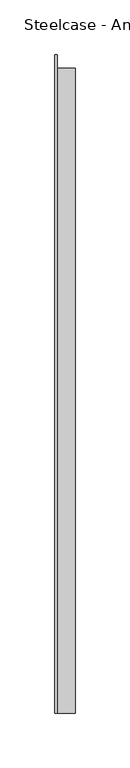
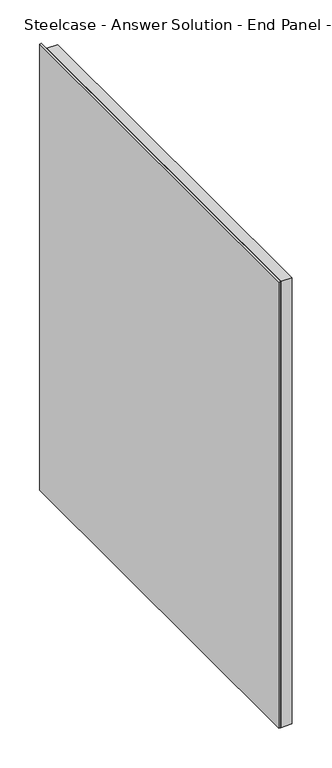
"""IFC4 building model written with IfcOpenShell, lengths in millimetres: furniture geometry, Steelcase - Answer Solution - End Panel - On Module : 24in - Left."""

from ifc_helpers import new_model, si_unit, origin, origin_with_axes, place, context, project, spatial, polyline, outline, extrude, source, transform, mapped, element, save


def steelcase_answer_solution_end_panel_on_module_24in_left_b476144d(model_context):
    return source(origin(), model_context, "Body", "SweptSolid", [
        extrude(outline(polyline([(-6.9848062, 0.0), (-6.9848062, -603.25), (-9.5248062, -603.25), (-9.5248062, 0.0), (-6.9848062, 0.0)])), origin_with_axes(), (0.0, 0.0, 1.0), 685.9143099),
        extrude(outline(polyline([(9.5251938, -12.7032217), (9.5251938, -603.25), (-6.9848062, -603.25), (-6.9848062, -12.7032217), (9.5251938, -12.7032217)])), origin_with_axes(), (0.0, 0.0, 1.0), 685.9143099),
    ])


if __name__ == "__main__":
    model = new_model("IFC4")
    model_context = context("Model", 3, world=origin())
    ifc_project = project(units=[si_unit("LENGTHUNIT", "METRE", prefix="MILLI")], contexts=[model_context])
    site = spatial("IfcSite", under=ifc_project)
    building = spatial("IfcBuilding", under=site)
    placement = place(None, origin())
    steelcase_answer_solution_end_panel_on_module_24in_left_shape = steelcase_answer_solution_end_panel_on_module_24in_left_b476144d(model_context)
    element("IfcFurniture", 1, ObjectType="Steelcase - Answer Solution - End Panel - On Module : 24in - Left", at=placement, inside=building, context=model_context, shape_type="MappedRepresentation", body=[
        mapped(steelcase_answer_solution_end_panel_on_module_24in_left_shape, transform((0.0, 0.0, 0.0), x_axis=(1.0, 0.0, 0.0), y_axis=(0.0, 1.0, 0.0), z_axis=(0.0, 0.0, 1.0))),
    ])
    save(model, "model.ifc")
